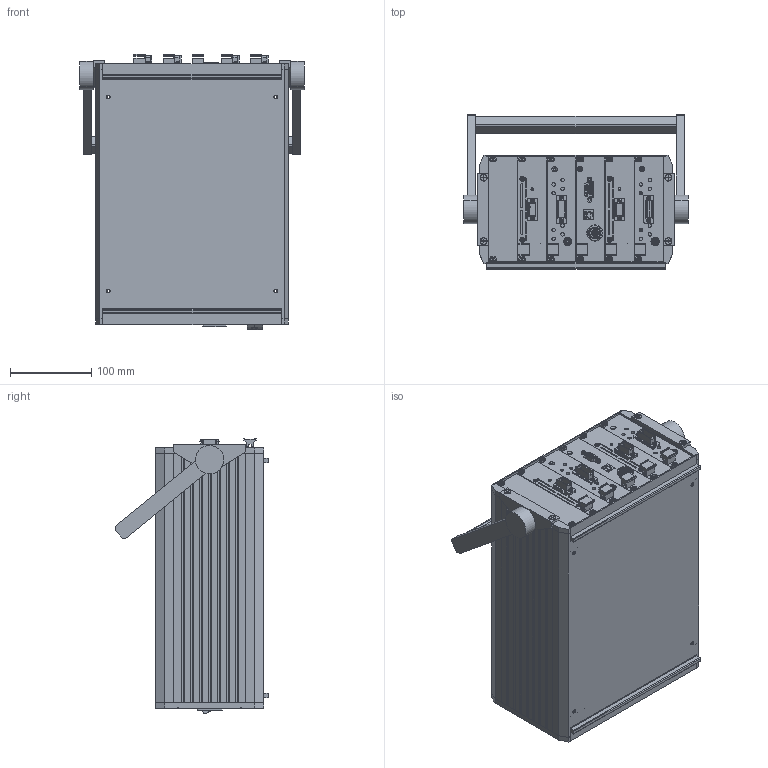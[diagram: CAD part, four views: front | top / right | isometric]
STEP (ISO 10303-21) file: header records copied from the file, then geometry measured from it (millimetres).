
FILE_DESCRIPTION (( 'STEP AP203' ), '1' );
FILE_NAME ('E00.D12AL-V4.STEP', '2025-07-11T02:49:00', ( 'China' ), ( 'Home' ), 'SwSTEP 2.0', 'SolidWorks 2016', '' );
FILE_SCHEMA (( 'CONFIG_CONTROL_DESIGN' ));
Length unit declared in the file: millimetre
Products named in the file (1): E00.D12AL-V4
Bounding box: 276.6 x 189.33 x 339.1 mm (x, y, z)
Surface area: 547753.6 mm2 (no closed solid volume)
Topology: 0 solids, 140 shells, 1284 faces, 6856 edges, 5631 vertices
Faces by surface type: plane 731, cylinder 446, cone 69, sphere 20, bspline 18
Entity records: 73315 total; most frequent: CARTESIAN_POINT 18098, DIRECTION 11846, ORIENTED_EDGE 9124, EDGE_CURVE 6852, VERTEX_POINT 5631, AXIS2_PLACEMENT_3D 4048, LINE 3750, VECTOR 3750
